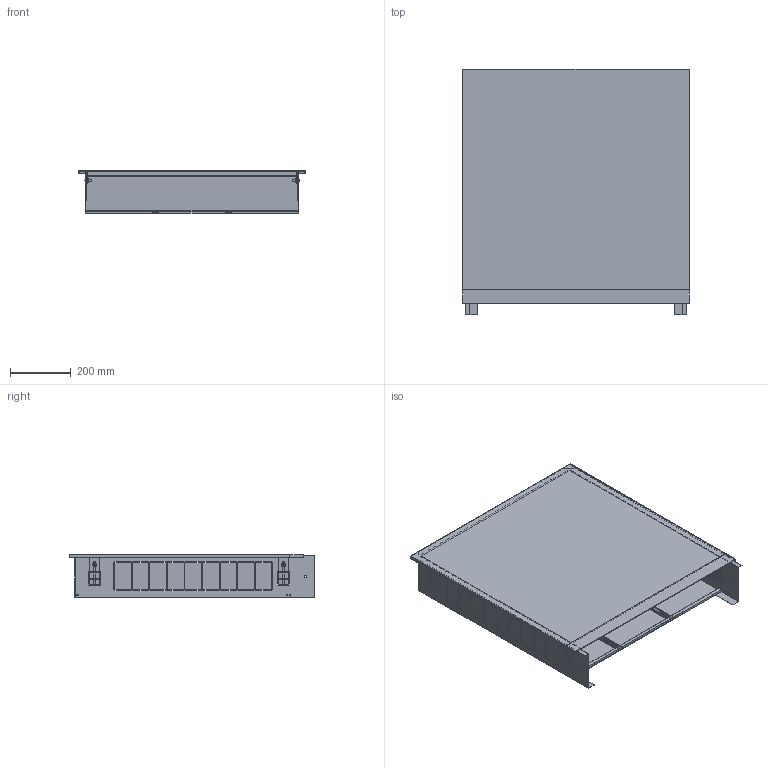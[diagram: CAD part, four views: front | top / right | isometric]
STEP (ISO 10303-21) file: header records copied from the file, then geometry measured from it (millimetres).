
FILE_DESCRIPTION(('STEP AP203'), '1');
FILE_NAME('VTc.540.H.03', '', ('UNSPECIFIED'), ('UNSPECIFIED'), 'C3D Converter', 'C3D Toolkit', '');
FILE_SCHEMA(('CONFIG_CONTROL_DESIGN'));
Length unit declared in the file: millimetre
Products named in the file (1): ВР.301442.002.000 СБ
Bounding box: 745.6 x 808.3 x 141.3 mm (x, y, z)
Volume: 1654043.8 mm3; surface area: 3092039.5 mm2
Topology: 1 solids, 1 shells, 620 faces, 1750 edges, 1134 vertices
Faces by surface type: plane 514, cone 60, cylinder 42, sphere 4
Full cylindrical faces by diameter (mm): 6 x8, 6.4 x4, 7 x2, 14 x4, 18 x4
Entity records: 21676 total; most frequent: CARTESIAN_POINT 5699, ORIENTED_EDGE 3384, DIRECTION 2998, EDGE_CURVE 1692, LINE 1420, VECTOR 1420, VERTEX_POINT 1122, EDGE_LOOP 810
